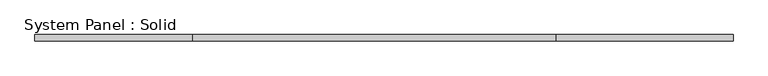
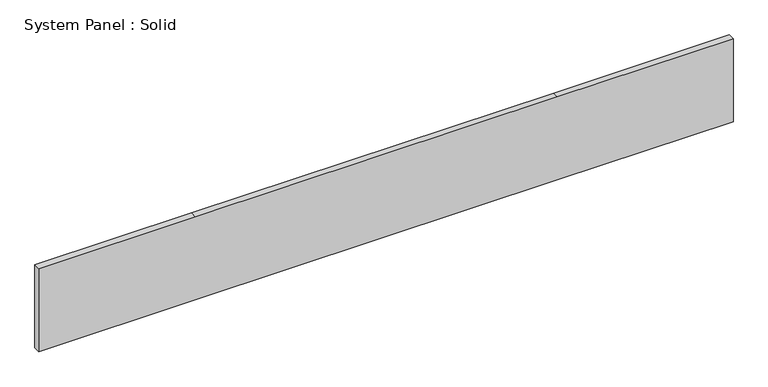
"""IFC4 building model written with IfcOpenShell, lengths in millimetres: plate geometry, System Panel : Solid."""

from ifc_helpers import new_model, si_unit, frame, origin, place, context, project, spatial, polyline, outline, extrude, source, transform, mapped, element, save


def system_panel_solid_60e6722b(model_context):
    return source(origin(), model_context, "Body", "SweptSolid", [
        extrude(outline(polyline([(0.0, -3261.75), (0.0, -1788.25), (0.0, 1611.75), (0.0, 3261.75), (825.0, 3261.75), (825.0, 1611.75), (825.0, -1788.25), (825.0, -3261.75), (0.0, -3261.75)])), frame((0.0, -10.5, 0.0), z_axis=(0.0, 1.0, 0.0), x_axis=(0.0, 0.0, 1.0)), (0.0, 0.0, 1.0), 60.0),
    ])


if __name__ == "__main__":
    model = new_model("IFC4")
    model_context = context("Model", 3, world=origin())
    ifc_project = project(units=[si_unit("LENGTHUNIT", "METRE", prefix="MILLI")], contexts=[model_context])
    site = spatial("IfcSite", under=ifc_project)
    building = spatial("IfcBuilding", under=site)
    placement = place(None, origin())
    system_panel_solid_shape = system_panel_solid_60e6722b(model_context)
    element("IfcPlate", 1, ObjectType="System Panel : Solid", at=placement, inside=building, context=model_context, shape_type="MappedRepresentation", body=[
        mapped(system_panel_solid_shape, transform((0.0, 0.0, 0.0), x_axis=(1.0, 0.0, 0.0), y_axis=(0.0, 1.0, 0.0), z_axis=(0.0, 0.0, 1.0))),
    ])
    save(model, "model.ifc")
